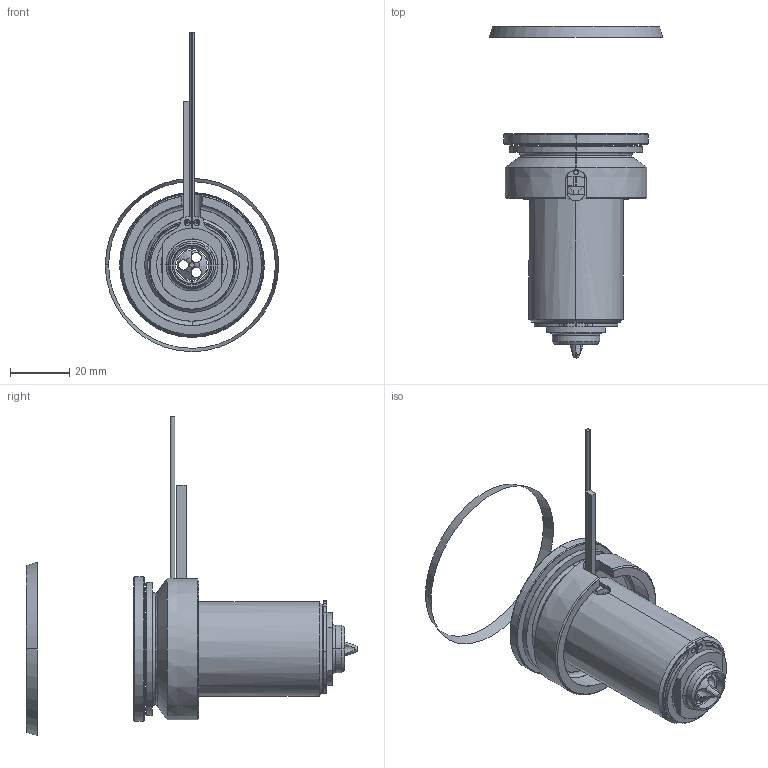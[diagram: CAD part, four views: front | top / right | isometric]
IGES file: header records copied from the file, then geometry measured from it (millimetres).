
Start section: SolidWorks IGES file using analytic representation for surfaces
Global section: file name: C:\Documents and Settings\ws-20\Desktop\TEM\UGEP5001-S-A-1 [Øf-1.55 ØC-13].IGS; native system: SolidWorks 2012; preprocessor: SolidWorks 2012; author: ws-20; date: 120426.102224; units: millimetre
Bounding box: 58.57 x 112.24 x 107.94 mm (x, y, z)
Surface area: 31726.1 mm2 (no closed solid volume)
Topology: 0 solids, 0 shells, 127 faces, 2444 edges, 2444 vertices
Faces by surface type: revolution 81, bspline 46
